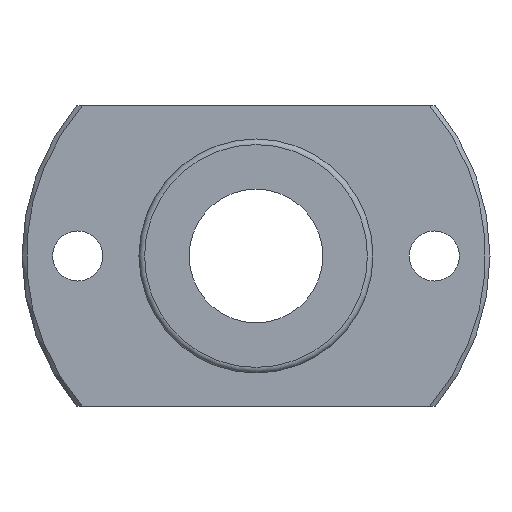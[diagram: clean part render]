
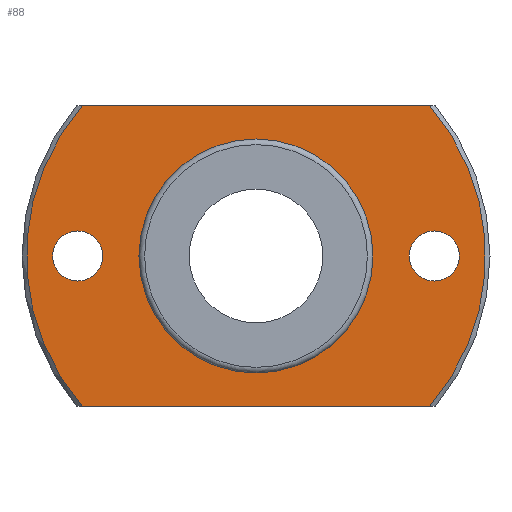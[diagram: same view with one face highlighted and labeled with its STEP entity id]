
A CAD part, left-side view. The second image highlights one B-rep face of the part: STEP entity #88.
In plain terms, the highlighted planar face has unit normal (-1, 0, 0).
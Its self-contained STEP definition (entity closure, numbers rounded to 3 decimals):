
#88=ADVANCED_FACE('',(#133,#134,#135,#136),#137,.T.);
#133=FACE_BOUND('',#195,.T.);
#134=FACE_BOUND('',#196,.T.);
#135=FACE_BOUND('',#197,.T.);
#136=FACE_OUTER_BOUND('',#198,.T.);
#137=PLANE('',#199);
#195=EDGE_LOOP('',(#308));
#196=EDGE_LOOP('',(#309));
#197=EDGE_LOOP('',(#310));
#198=EDGE_LOOP('',(#311,#312,#313,#314));
#199=AXIS2_PLACEMENT_3D('',#315,#316,#317);
#308=ORIENTED_EDGE('',*,*,#397,.F.);
#309=ORIENTED_EDGE('',*,*,#394,.T.);
#310=ORIENTED_EDGE('',*,*,#398,.T.);
#311=ORIENTED_EDGE('',*,*,#376,.T.);
#312=ORIENTED_EDGE('',*,*,#399,.T.);
#313=ORIENTED_EDGE('',*,*,#400,.T.);
#314=ORIENTED_EDGE('',*,*,#366,.T.);
#315=CARTESIAN_POINT('',(-6.0,15.375,0.0));
#316=DIRECTION('',(-1.0,0.0,0.));
#317=DIRECTION('',(0.,0.0,1.0));
#366=EDGE_CURVE('',#405,#406,#407,.T.);
#376=EDGE_CURVE('',#406,#423,#425,.T.);
#394=EDGE_CURVE('',#455,#455,#456,.T.);
#397=EDGE_CURVE('',#461,#461,#462,.T.);
#398=EDGE_CURVE('',#463,#463,#464,.T.);
#399=EDGE_CURVE('',#423,#465,#466,.T.);
#400=EDGE_CURVE('',#465,#405,#467,.T.);
#405=VERTEX_POINT('',#475);
#406=VERTEX_POINT('',#476);
#407=LINE('',#477,#478);
#423=VERTEX_POINT('',#509);
#425=CIRCLE('',#514,20.6);
#455=VERTEX_POINT('',#553);
#456=CIRCLE('',#554,2.25);
#461=VERTEX_POINT('',#559);
#462=CIRCLE('',#560,10.15);
#463=VERTEX_POINT('',#561);
#464=CIRCLE('',#562,2.25);
#465=VERTEX_POINT('',#563);
#466=LINE('',#564,#565);
#467=CIRCLE('',#566,20.6);
#475=CARTESIAN_POINT('',(-6.0,-15.56,13.5));
#476=CARTESIAN_POINT('',(-6.0,15.56,13.5));
#477=CARTESIAN_POINT('',(-6.0,15.375,13.5));
#478=VECTOR('',#577,1.0);
#509=CARTESIAN_POINT('',(-6.0,15.56,-13.5));
#514=AXIS2_PLACEMENT_3D('',#584,#585,#586);
#553=CARTESIAN_POINT('',(-6.0,16.0,2.25));
#554=AXIS2_PLACEMENT_3D('',#626,#627,#628);
#559=CARTESIAN_POINT('',(-6.0,10.15,0.0));
#560=AXIS2_PLACEMENT_3D('',#635,#636,#637);
#561=CARTESIAN_POINT('',(-6.0,-16.0,2.25));
#562=AXIS2_PLACEMENT_3D('',#638,#639,#640);
#563=CARTESIAN_POINT('',(-6.0,-15.56,-13.5));
#564=CARTESIAN_POINT('',(-6.0,15.375,-13.5));
#565=VECTOR('',#641,1.0);
#566=AXIS2_PLACEMENT_3D('',#642,#643,#644);
#577=DIRECTION('',(0.0,1.0,0.0));
#584=CARTESIAN_POINT('',(-6.0,0.0,0.0));
#585=DIRECTION('',(-1.0,0.0,0.));
#586=DIRECTION('',(0.0,1.0,0.0));
#626=CARTESIAN_POINT('',(-6.0,16.0,0.));
#627=DIRECTION('',(1.0,0.0,0.));
#628=DIRECTION('',(0.,0.0,-1.0));
#635=CARTESIAN_POINT('',(-6.0,0.0,0.0));
#636=DIRECTION('',(-1.0,0.0,0.));
#637=DIRECTION('',(0.0,1.0,0.0));
#638=CARTESIAN_POINT('',(-6.0,-16.0,0.));
#639=DIRECTION('',(1.0,0.0,0.));
#640=DIRECTION('',(0.,0.0,-1.0));
#641=DIRECTION('',(0.0,-1.0,0.0));
#642=CARTESIAN_POINT('',(-6.0,0.0,0.0));
#643=DIRECTION('',(-1.0,0.0,0.));
#644=DIRECTION('',(0.0,1.0,0.0));
